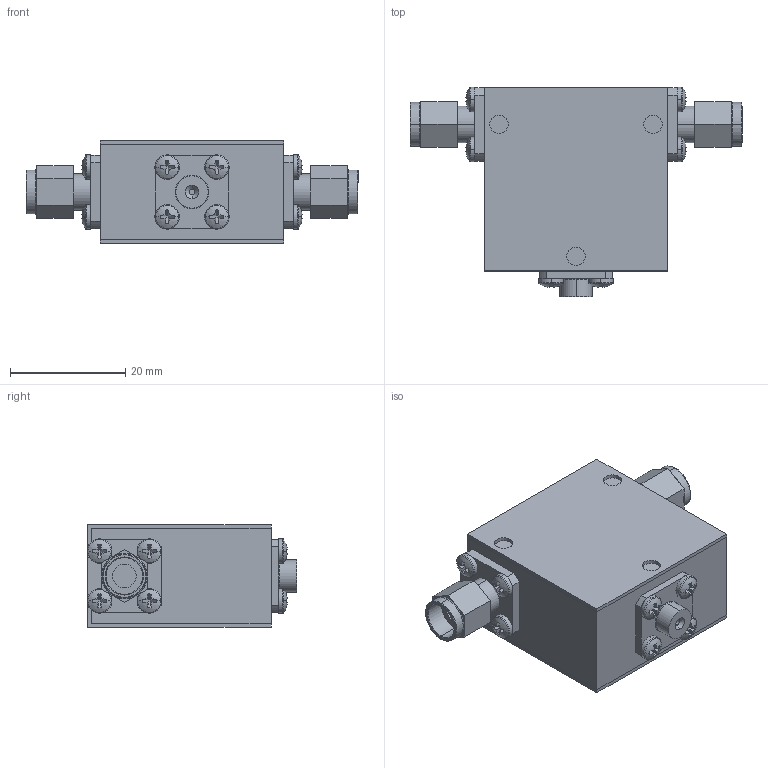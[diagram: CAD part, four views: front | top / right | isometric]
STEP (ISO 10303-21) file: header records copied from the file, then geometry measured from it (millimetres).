
FILE_DESCRIPTION (( 'STEP AP214' ), '1' );
FILE_NAME ('Package 2 Iso MM.step', '2021-12-01T20:59:27', ( '' ), ( '' ), 'SwSTEP 2.0', 'SolidWorks 2016', '' );
FILE_SCHEMA (( 'AUTOMOTIVE_DESIGN' ));
Length unit declared in the file: inch
Products named in the file (6): Package 2; Package Size 2; 030013-1A; Delta SMA-Male; Package 2 Iso MM; pan cross head_ai_CR-PHMS 0.086-56x0.125x0.125-N
Assembly tree (17 placements, depth 2):
  Package 2 Iso MM
    Package Size 2
    Package 2
    pan cross head_ai_CR-PHMS 0.086-56x0.125x0.125-N  x12
    Delta SMA-Male  x2
    030013-1A
Bounding box: 57.51 x 36.28 x 17.78 mm (x, y, z)
Volume: 19494.8 mm3; surface area: 12278.4 mm2
Topology: 17 solids, 17 shells, 430 faces, 980 edges, 604 vertices
Faces by surface type: plane 246, cylinder 118, torus 38, sphere 24, cone 4
Entity records: 4284 total; most frequent: DIRECTION 774, CARTESIAN_POINT 668, ORIENTED_EDGE 632, EDGE_CURVE 316, AXIS2_PLACEMENT_3D 308, VERTEX_POINT 202, EDGE_LOOP 168, LINE 158
